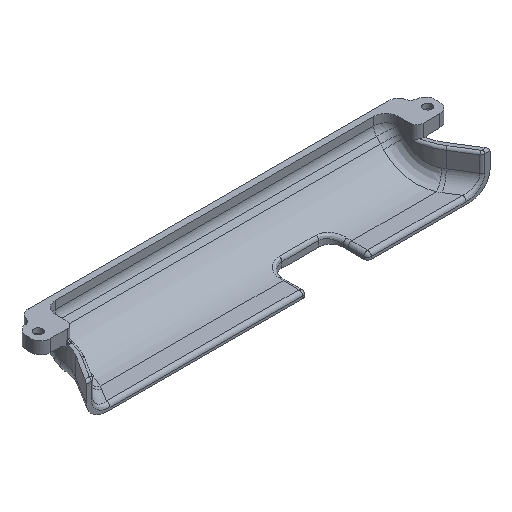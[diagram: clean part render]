
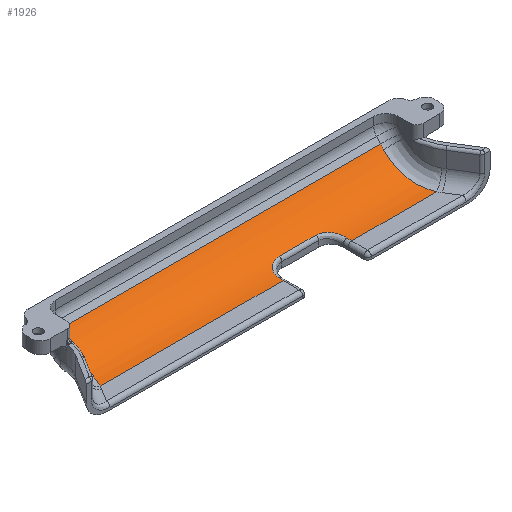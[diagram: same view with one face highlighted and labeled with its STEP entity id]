
A CAD part, isometric view. The second image highlights one B-rep face of the part: STEP entity #1926.
In plain terms, the highlighted cylindrical face has radius 50 mm (diameter 100 mm), a partial arc.
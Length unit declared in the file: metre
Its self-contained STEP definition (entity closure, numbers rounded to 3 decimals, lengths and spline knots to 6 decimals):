
#53=CYLINDRICAL_SURFACE('',#2116,0.05);
#104=B_SPLINE_CURVE_WITH_KNOTS('',3,(#3220,#3221,#3222,#3223,#3224,#3225,
#3226,#3227),.UNSPECIFIED.,.F.,.F.,(4,1,1,1,1,4),(0.,
0.002491,0.004982,0.009965,0.014947,
0.01993),.UNSPECIFIED.);
#105=B_SPLINE_CURVE_WITH_KNOTS('',3,(#3231,#3232,#3233,#3234,#3235,#3236,
#3237,#3238,#3239),.UNSPECIFIED.,.F.,.F.,(4,1,1,1,1,1,4),(0.,
0.010292,0.015438,0.020584,0.02573,
0.030876,0.041168),.UNSPECIFIED.);
#106=B_SPLINE_CURVE_WITH_KNOTS('',3,(#3244,#3245,#3246,#3247,#3248,#3249,
#3250,#3251,#3252,#3253),.UNSPECIFIED.,.F.,.F.,(4,1,1,1,1,1,1,4),(0.,0.010288,
0.015432,0.020577,0.025721,0.030865,
0.036009,0.041153),.UNSPECIFIED.);
#107=B_SPLINE_CURVE_WITH_KNOTS('',3,(#3256,#3257,#3258,#3259,#3260,#3261,
#3262,#3263),.UNSPECIFIED.,.F.,.F.,(4,1,1,1,1,4),(0.,0.002488,
0.004975,0.00995,0.014925,0.0199),
 .UNSPECIFIED.);
#196=LINE('',#3132,#341);
#207=LINE('',#3170,#352);
#211=LINE('',#3181,#356);
#223=LINE('',#3265,#368);
#341=VECTOR('',#2445,1.);
#352=VECTOR('',#2482,1.);
#356=VECTOR('',#2490,1.);
#368=VECTOR('',#2536,1.);
#610=ORIENTED_EDGE('',*,*,#1170,.T.);
#611=ORIENTED_EDGE('',*,*,#1171,.T.);
#612=ORIENTED_EDGE('',*,*,#1147,.F.);
#613=ORIENTED_EDGE('',*,*,#1172,.T.);
#614=ORIENTED_EDGE('',*,*,#1173,.T.);
#615=ORIENTED_EDGE('',*,*,#1152,.F.);
#616=ORIENTED_EDGE('',*,*,#1174,.T.);
#617=ORIENTED_EDGE('',*,*,#1175,.T.);
#618=ORIENTED_EDGE('',*,*,#1127,.F.);
#619=ORIENTED_EDGE('',*,*,#1176,.T.);
#620=ORIENTED_EDGE('',*,*,#1177,.T.);
#621=ORIENTED_EDGE('',*,*,#1178,.T.);
#1127=EDGE_CURVE('',#1408,#1409,#196,.F.);
#1147=EDGE_CURVE('',#1423,#1424,#207,.F.);
#1152=EDGE_CURVE('',#1428,#1429,#211,.T.);
#1170=EDGE_CURVE('',#1442,#1443,#104,.T.);
#1171=EDGE_CURVE('',#1443,#1424,#1542,.F.);
#1172=EDGE_CURVE('',#1423,#1444,#105,.T.);
#1173=EDGE_CURVE('',#1444,#1429,#1543,.T.);
#1174=EDGE_CURVE('',#1428,#1445,#1544,.F.);
#1175=EDGE_CURVE('',#1445,#1409,#106,.T.);
#1176=EDGE_CURVE('',#1408,#1446,#1545,.T.);
#1177=EDGE_CURVE('',#1446,#1447,#107,.T.);
#1178=EDGE_CURVE('',#1447,#1442,#223,.F.);
#1408=VERTEX_POINT('',#3131);
#1409=VERTEX_POINT('',#3133);
#1423=VERTEX_POINT('',#3171);
#1424=VERTEX_POINT('',#3172);
#1428=VERTEX_POINT('',#3182);
#1429=VERTEX_POINT('',#3183);
#1442=VERTEX_POINT('',#3228);
#1443=VERTEX_POINT('',#3229);
#1444=VERTEX_POINT('',#3240);
#1445=VERTEX_POINT('',#3243);
#1446=VERTEX_POINT('',#3255);
#1447=VERTEX_POINT('',#3264);
#1542=CIRCLE('',#2117,0.05);
#1543=CIRCLE('',#2118,0.05);
#1544=CIRCLE('',#2119,0.05);
#1545=CIRCLE('',#2120,0.05);
#1636=EDGE_LOOP('',(#610,#611,#612,#613,#614,#615,#616,#617,#618,#619,#620,
#621));
#1763=FACE_BOUND('',#1636,.T.);
#1926=ADVANCED_FACE('',(#1763),#53,.F.);
#2116=AXIS2_PLACEMENT_3D('',#3219,#2526,#2527);
#2117=AXIS2_PLACEMENT_3D('',#3230,#2528,#2529);
#2118=AXIS2_PLACEMENT_3D('',#3241,#2530,#2531);
#2119=AXIS2_PLACEMENT_3D('',#3242,#2532,#2533);
#2120=AXIS2_PLACEMENT_3D('',#3254,#2534,#2535);
#2445=DIRECTION('',(1.,0.,0.));
#2482=DIRECTION('',(1.,0.,0.));
#2490=DIRECTION('',(1.,0.,0.));
#2526=DIRECTION('',(-1.,0.,0.));
#2527=DIRECTION('',(0.,0.,1.));
#2528=DIRECTION('',(1.,0.,0.));
#2529=DIRECTION('',(0.,0.,-1.));
#2530=DIRECTION('',(1.,0.,0.));
#2531=DIRECTION('',(0.,0.,-1.));
#2532=DIRECTION('',(1.,0.,0.));
#2533=DIRECTION('',(0.,0.,-1.));
#2534=DIRECTION('',(1.,0.,0.));
#2535=DIRECTION('',(0.,1.,0.));
#2536=DIRECTION('',(-1.,0.,0.));
#3131=CARTESIAN_POINT('',(0.012,-0.016498,-0.035));
#3132=CARTESIAN_POINT('',(-0.14,-0.016498,-0.035));
#3133=CARTESIAN_POINT('',(-0.137421,-0.016498,-0.035));
#3170=CARTESIAN_POINT('',(-0.14,-0.016498,-0.035));
#3171=CARTESIAN_POINT('',(0.137421,-0.016498,-0.035));
#3172=CARTESIAN_POINT('',(0.068,-0.016498,-0.035));
#3181=CARTESIAN_POINT('',(0.14,0.022138,-0.016737));
#3182=CARTESIAN_POINT('',(-0.13,0.022138,-0.016737));
#3183=CARTESIAN_POINT('',(0.13,0.022138,-0.016737));
#3219=CARTESIAN_POINT('',(-0.14,-0.016498,0.015));
#3220=CARTESIAN_POINT('',(0.055,-0.000462,-0.032359));
#3221=CARTESIAN_POINT('',(0.055841,-0.000462,-0.032359));
#3222=CARTESIAN_POINT('',(0.057495,-0.000613,-0.03241));
#3223=CARTESIAN_POINT('',(0.060726,-0.001517,-0.032709));
#3224=CARTESIAN_POINT('',(0.064291,-0.003708,-0.033378));
#3225=CARTESIAN_POINT('',(0.06726,-0.007747,-0.034302));
#3226=CARTESIAN_POINT('',(0.068,-0.011046,-0.03473));
#3227=CARTESIAN_POINT('',(0.068,-0.012726,-0.034858));
#3228=CARTESIAN_POINT('',(0.055,-0.000462,-0.032359));
#3229=CARTESIAN_POINT('',(0.068,-0.012726,-0.034858));
#3230=CARTESIAN_POINT('',(0.068,-0.016498,0.015));
#3231=CARTESIAN_POINT('',(0.137421,-0.016498,-0.035));
#3232=CARTESIAN_POINT('',(0.136023,-0.013319,-0.035));
#3233=CARTESIAN_POINT('',(0.134264,-0.00851,-0.034553));
#3234=CARTESIAN_POINT('',(0.132499,-0.001989,-0.032938));
#3235=CARTESIAN_POINT('',(0.131491,0.002787,-0.031223));
#3236=CARTESIAN_POINT('',(0.130769,0.007373,-0.029034));
#3237=CARTESIAN_POINT('',(0.130136,0.013283,-0.025424));
#3238=CARTESIAN_POINT('',(0.13,0.017231,-0.022073));
#3239=CARTESIAN_POINT('',(0.13,0.019632,-0.019564));
#3240=CARTESIAN_POINT('',(0.13,0.019632,-0.019564));
#3241=CARTESIAN_POINT('',(0.13,-0.016498,0.015));
#3242=CARTESIAN_POINT('',(-0.13,-0.016498,0.015));
#3243=CARTESIAN_POINT('',(-0.13,0.019632,-0.019564));
#3244=CARTESIAN_POINT('',(-0.13,0.019632,-0.019564));
#3245=CARTESIAN_POINT('',(-0.13,0.017231,-0.022073));
#3246=CARTESIAN_POINT('',(-0.130136,0.013313,-0.025397));
#3247=CARTESIAN_POINT('',(-0.130762,0.007426,-0.029007));
#3248=CARTESIAN_POINT('',(-0.131489,0.002795,-0.03122));
#3249=CARTESIAN_POINT('',(-0.132489,-0.001941,-0.032922));
#3250=CARTESIAN_POINT('',(-0.133807,-0.006832,-0.034142));
#3251=CARTESIAN_POINT('',(-0.135433,-0.011706,-0.034849));
#3252=CARTESIAN_POINT('',(-0.136722,-0.014908,-0.035));
#3253=CARTESIAN_POINT('',(-0.137421,-0.016498,-0.035));
#3254=CARTESIAN_POINT('',(0.012,-0.016498,0.015));
#3255=CARTESIAN_POINT('',(0.012,-0.012726,-0.034858));
#3256=CARTESIAN_POINT('',(0.012,-0.012726,-0.034858));
#3257=CARTESIAN_POINT('',(0.012,-0.011886,-0.034794));
#3258=CARTESIAN_POINT('',(0.012179,-0.010245,-0.034628));
#3259=CARTESIAN_POINT('',(0.013232,-0.007074,-0.034148));
#3260=CARTESIAN_POINT('',(0.015704,-0.003713,-0.03338));
#3261=CARTESIAN_POINT('',(0.019984,-0.001081,-0.032575));
#3262=CARTESIAN_POINT('',(0.023317,-0.000462,-0.032359));
#3263=CARTESIAN_POINT('',(0.025,-0.000462,-0.032359));
#3264=CARTESIAN_POINT('',(0.025,-0.000462,-0.032359));
#3265=CARTESIAN_POINT('',(-0.14,-0.000462,-0.032359));
